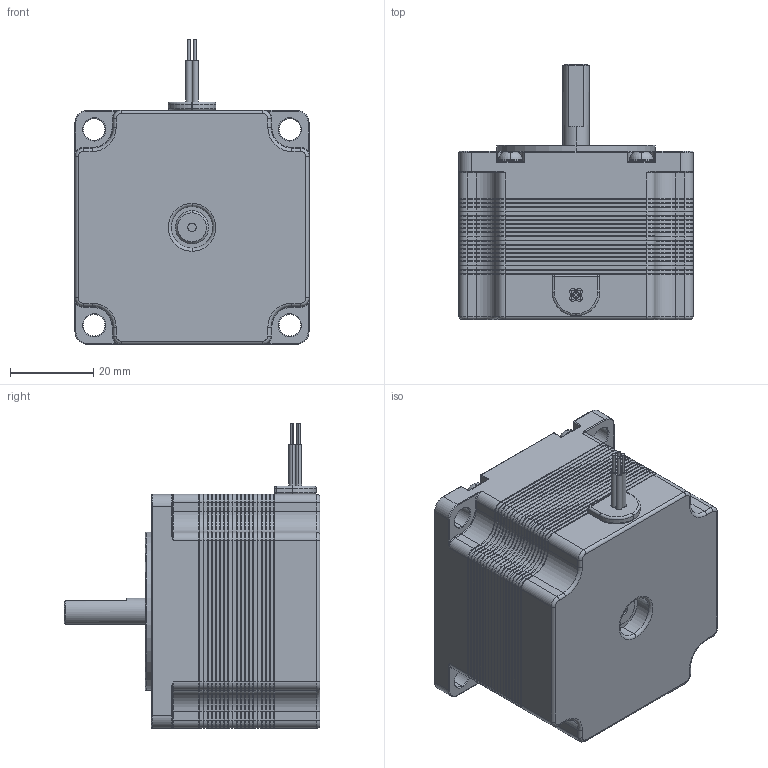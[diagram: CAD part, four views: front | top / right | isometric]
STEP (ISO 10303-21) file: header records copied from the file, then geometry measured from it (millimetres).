
FILE_DESCRIPTION (( 'STEP AP214' ), '1' );
FILE_NAME ('Nema 23 Stepper Motor length 41mm_6.35.STEP', '2020-11-11T10:20:49', ( 'Moofasta' ), ( '' ), 'SwSTEP 2.0', 'SolidWorks 2020', '' );
FILE_SCHEMA (( 'AUTOMOTIVE_DESIGN' ));
Length unit declared in the file: millimetre
Products named in the file (1): Nema 23 Stepper Motor length 41mm_6.35
Bounding box: 56.3 x 61.5 x 73.3 mm (x, y, z)
Volume: 118484.1 mm3; surface area: 124707.7 mm2
Topology: 34 solids, 34 shells, 1809 faces, 4120 edges, 2365 vertices
Faces by surface type: plane 857, cone 460, cylinder 378, torus 94, sphere 12, bspline 8
Entity records: 65235 total; most frequent: DIRECTION 8994, CARTESIAN_POINT 8729, ORIENTED_EDGE 8200, EDGE_CURVE 4100, AXIS2_PLACEMENT_3D 3166, LINE 2662, VECTOR 2662, VERTEX_POINT 2365
